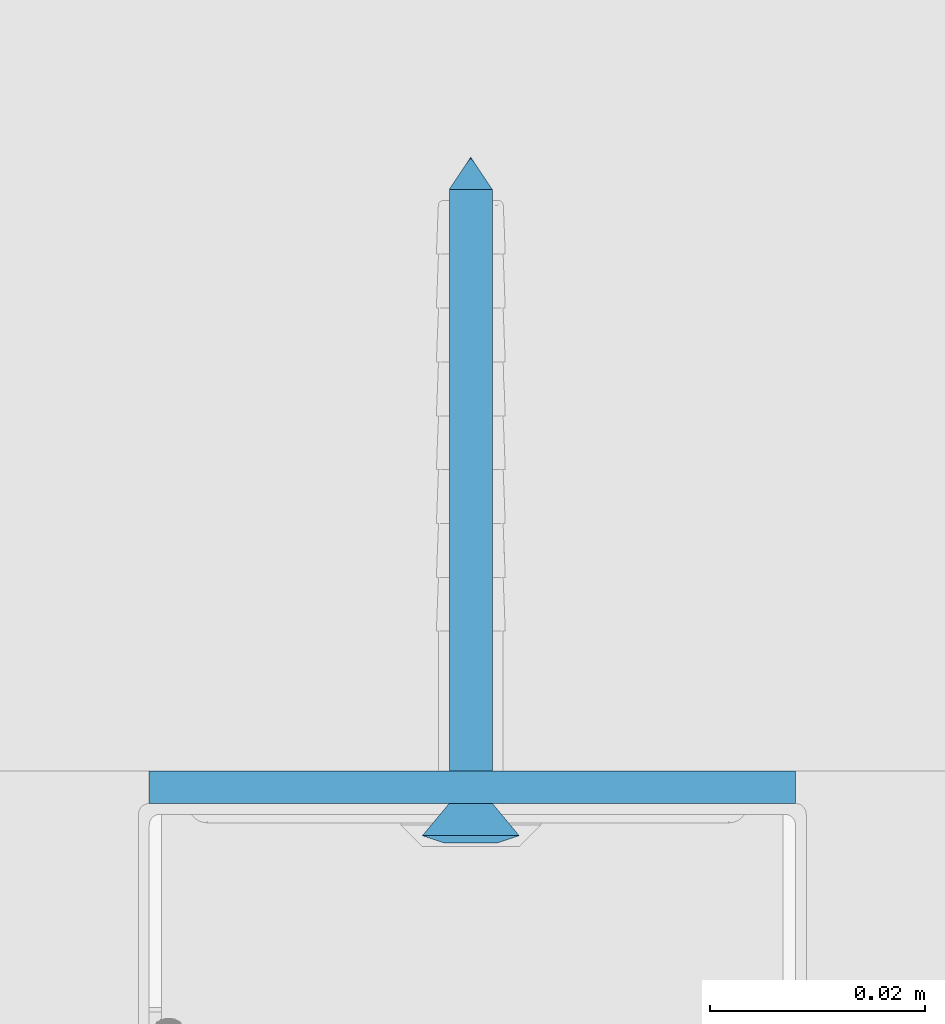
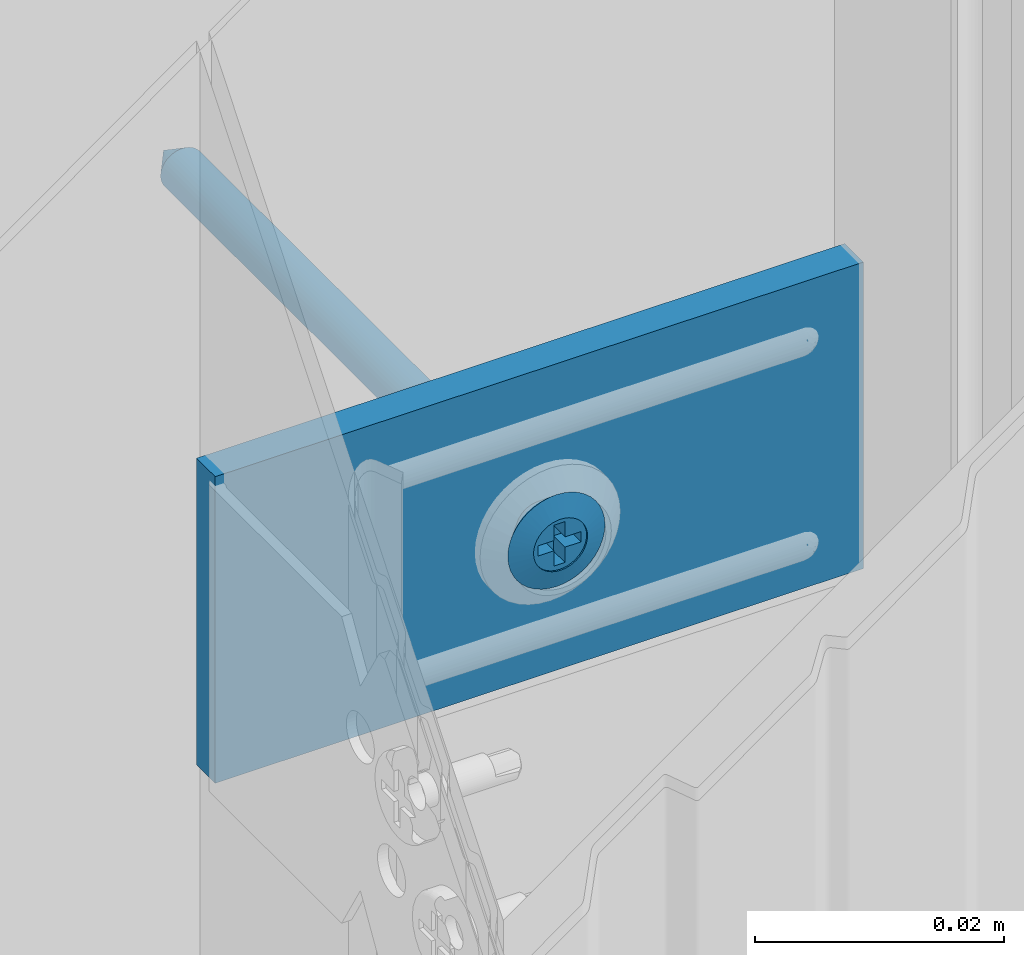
# One storey, part 52 of 62: 2 walls.
"""IFC2X3 building model written with IfcOpenShell, lengths in millimetres."""

from ifc_helpers import new_model, entity, si_unit, converted_unit, direction, frame, origin, origin_with_axes, place, context, project, spatial, faceted_brep, element, save


model = new_model("IFC2X3")

# Units and contexts
model_context = context("Model", 3, precision=1e-05, world=origin(), true_north=direction((0.0, 1.0, 0.0)))
ifc_project = project(units=[si_unit("LENGTHUNIT", "METRE", prefix="MILLI"), si_unit("AREAUNIT", "SQUARE_METRE"), si_unit("VOLUMEUNIT", "CUBIC_METRE"), converted_unit("PLANEANGLEUNIT", "DEGREE", entity("IfcPlaneAngleMeasure", 0.01745), si_unit("PLANEANGLEUNIT", "RADIAN"), dimensions=[0, 0, 0, 0, 0, 0, 0]), si_unit("SOLIDANGLEUNIT", "STERADIAN"), si_unit("MASSUNIT", "GRAM"), si_unit("TIMEUNIT", "SECOND"), si_unit("THERMODYNAMICTEMPERATUREUNIT", "DEGREE_CELSIUS"), si_unit("LUMINOUSINTENSITYUNIT", "LUMEN")], contexts=[model_context])

# Site, building, storey
site_placement = place(None, origin_with_axes())
site = spatial("IfcSite", under=ifc_project, at=site_placement, Name="Default Site", CompositionType="ELEMENT")
building_placement = place(site_placement, origin_with_axes())
building = spatial("IfcBuilding", under=site, at=building_placement, Name="Default Building", CompositionType="ELEMENT")
storey_placement = place(building_placement, origin_with_axes())
storey = spatial("IfcBuildingStorey", under=building, at=storey_placement, Name="Default Building Storey", CompositionType="ELEMENT", Elevation=0.0)

# Walls
wall_1_placement = place(storey_placement, frame((2873.037086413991, 2019.778611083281, 272.8482394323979), z_axis=(0.0, 0.0, -1.0), x_axis=(1.0, 0.0, 0.0)))
element("IfcWall", 1, at=wall_1_placement, inside=storey, Name="Taśma uszczelniająca piankowa RIGIPS szer.30mm", context=model_context, shape_type="Brep", body=[
    faceted_brep([(59.99999999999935, 0.0, 4.511946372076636e-12), (0.0, 0.0, 0.0), (1.082867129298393e-12, 2.237925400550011e-11, -30.00000000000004), (60.00000000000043, 2.237925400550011e-11, -29.99999999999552), (0.0, -3.00000000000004, 0.0), (1.082867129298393e-12, -2.999999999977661, -30.00000000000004), (60.00000000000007, -3.00000000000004, 0.0), (60.00000000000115, -2.999999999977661, -30.00000000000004)], [[[0, 1, 2, 3]], [[1, 4, 5, 2]], [[4, 6, 7, 5]], [[6, 0, 3, 7]], [[7, 3, 2, 5]], [[0, 6, 4, 1]]]),
])
wall_2_placement = place(storey_placement, frame((6356.176283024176, 2016.328611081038, -1145.863402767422), z_axis=(-6.858158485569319e-13, -1.0, -7.642380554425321e-14), x_axis=(-1.647602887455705e-11, 7.642380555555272e-14, -1.0)))
element("IfcWall", 2, at=wall_2_placement, inside=storey, Name="Kołek rozporowy min. fi 6", context=model_context, shape_type="Brep", body=[
    faceted_brep([(-1438.31414949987, -3453.283223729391, -0.4642567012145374), (-1435.814149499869, -3453.283223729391, -3.464256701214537), (-1435.78952618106, -3452.97035479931, -3.464256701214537), (-1438.258747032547, -3452.57926863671, -0.4642567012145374), (-1435.71626253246, -3452.665189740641, -3.464256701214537), (-1438.093903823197, -3451.892647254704, -0.4642567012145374), (-1435.596162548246, -3452.375242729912, -3.464256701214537), (-1437.823678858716, -3451.240266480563, -0.4642567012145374), (-1435.432183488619, -3452.107653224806, -3.464256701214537), (-1437.454725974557, -3450.638190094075, -0.4642567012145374), (-1435.228363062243, -3451.869010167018, -3.464256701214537), (-1436.996130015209, -3450.101243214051, -0.4642567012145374), (-1434.989720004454, -3451.665189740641, -3.464256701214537), (-1436.459183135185, -3449.642647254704, -0.4642567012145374), (-1434.722130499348, -3451.501210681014, -3.464256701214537), (-1435.857106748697, -3449.273694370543, -0.4642567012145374), (-1434.432183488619, -3451.381110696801, -3.464256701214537), (-1435.204725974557, -3449.003469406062, -0.4642567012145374), (-1434.12701842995, -3451.307847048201, -3.464256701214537), (-1434.51810459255, -3448.838626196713, -0.4642567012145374), (-1433.814149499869, -3451.283223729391, -3.464256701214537), (-1433.814149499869, -3448.783223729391, -0.4642567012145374), (-1433.501280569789, -3451.307847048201, -3.464256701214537), (-1433.110194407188, -3448.838626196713, -0.4642567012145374), (-1433.19611551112, -3451.381110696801, -3.464256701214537), (-1432.423573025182, -3449.003469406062, -0.4642567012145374), (-1432.906168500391, -3451.501210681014, -3.464256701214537), (-1431.771192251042, -3449.273694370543, -0.4642567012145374), (-1432.638578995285, -3451.665189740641, -3.464256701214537), (-1431.169115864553, -3449.642647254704, -0.4642567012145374), (-1432.399935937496, -3451.869010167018, -3.464256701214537), (-1430.63216898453, -3450.101243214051, -0.4642567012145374), (-1432.196115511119, -3452.107653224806, -3.464256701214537), (-1430.173573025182, -3450.638190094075, -0.4642567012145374), (-1432.032136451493, -3452.375242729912, -3.464256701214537), (-1429.804620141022, -3451.240266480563, -0.4642567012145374), (-1431.912036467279, -3452.665189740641, -3.464256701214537), (-1429.534395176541, -3451.892647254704, -0.4642567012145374), (-1431.838772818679, -3453.596092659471, -3.464256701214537), (-1429.369551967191, -3453.987178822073, -0.4642567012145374), (-1429.314149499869, -3453.283223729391, -0.4642567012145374), (-1431.81414949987, -3453.283223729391, -3.464256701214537), (-1429.369551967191, -3452.57926863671, -0.4642567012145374), (-1431.838772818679, -3452.97035479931, -3.464256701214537), (-1431.912036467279, -3453.901257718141, -3.464256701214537), (-1429.534395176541, -3454.673800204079, -0.4642567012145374), (-1432.032136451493, -3454.19120472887, -3.464256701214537), (-1429.804620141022, -3455.326180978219, -0.4642567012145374), (-1432.196115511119, -3454.458794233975, -3.464256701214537), (-1430.173573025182, -3455.928257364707, -0.4642567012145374), (-1432.399935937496, -3454.697437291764, -3.464256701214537), (-1430.63216898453, -3456.465204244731, -0.4642567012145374), (-1432.638578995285, -3454.901257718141, -3.464256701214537), (-1431.169115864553, -3456.923800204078, -0.4642567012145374), (-1432.906168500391, -3455.065236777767, -3.464256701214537), (-1431.771192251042, -3457.292753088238, -0.4642567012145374), (-1433.19611551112, -3455.185336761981, -3.464256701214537), (-1432.423573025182, -3457.562978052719, -0.4642567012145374), (-1433.501280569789, -3455.258600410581, -3.464256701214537), (-1433.110194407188, -3457.727821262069, -0.4642567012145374), (-1433.814149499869, -3455.283223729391, -3.464256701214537), (-1433.814149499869, -3457.783223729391, -0.4642567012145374), (-1434.34306778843, -3457.752031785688, -0.4642567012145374), (-1434.12701842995, -3455.258600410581, -3.464256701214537), (-1434.432183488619, -3455.185336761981, -3.464256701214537), (-1434.864653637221, -3457.658888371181, -0.4642567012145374), (-1435.371676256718, -3457.505084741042, -0.4642567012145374), (-1434.722130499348, -3455.065236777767, -3.464256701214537), (-1435.857106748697, -3457.292753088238, -0.4642567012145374), (-1434.989720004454, -3454.901257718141, -3.464256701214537), (-1435.228363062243, -3454.697437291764, -3.464256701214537), (-1436.314215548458, -3457.024836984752, -0.4642567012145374), (-1436.736665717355, -3456.705050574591, -0.4642567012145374), (-1437.11860079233, -3456.337827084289, -0.4642567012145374), (-1437.454725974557, -3455.928257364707, -0.4642567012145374), (-1435.432183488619, -3454.458794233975, -3.464256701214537), (-1435.596162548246, -3454.19120472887, -3.464256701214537), (-1437.823678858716, -3455.326180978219, -0.4642567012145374), (-1435.71626253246, -3453.901257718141, -3.464256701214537), (-1438.093903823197, -3454.673800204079, -0.4642567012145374), (-1435.78952618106, -3453.596092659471, -3.464256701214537), (-1438.258747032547, -3453.987178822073, -0.4642567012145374), (-1434.205235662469, -3455.752444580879, 0.2007375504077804), (-1433.814149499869, -3455.78322372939, 0.2007375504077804), (-1434.586691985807, -3455.660865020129, 0.2007375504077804), (-1434.949125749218, -3455.510740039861, 0.2007375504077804), (-1435.283612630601, -3455.305766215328, 0.2007375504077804), (-1435.581916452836, -3455.050990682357, 0.2007375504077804), (-1435.836691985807, -3454.752686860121, 0.2007375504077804), (-1436.04166581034, -3454.41819997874, 0.2007375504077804), (-1436.191790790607, -3454.055766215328, 0.2007375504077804), (-1436.283370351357, -3453.674309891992, 0.2007375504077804), (-1436.314149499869, -3453.283223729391, 0.2007375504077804), (-1436.283370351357, -3452.892137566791, 0.2007375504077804), (-1436.191790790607, -3452.510681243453, 0.2007375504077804), (-1436.04166581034, -3452.148247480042, 0.2007375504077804), (-1435.836691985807, -3451.81376059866, 0.200737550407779), (-1435.581916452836, -3451.515456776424, 0.2007375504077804), (-1435.283612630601, -3451.260681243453, 0.2007375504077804), (-1434.949125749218, -3451.05570741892, 0.2007375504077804), (-1434.586691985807, -3450.905582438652, 0.2007375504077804), (-1433.423063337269, -3450.814002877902, 0.2007375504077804), (-1433.814149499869, -3450.783223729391, 0.2007375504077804), (-1434.205235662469, -3450.814002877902, 0.2007375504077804), (-1433.041607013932, -3450.905582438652, 0.2007375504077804), (-1432.67917325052, -3451.05570741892, 0.2007375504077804), (-1432.344686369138, -3451.260681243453, 0.2007375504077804), (-1432.046382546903, -3451.515456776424, 0.2007375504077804), (-1431.791607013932, -3451.81376059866, 0.2007375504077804), (-1431.586633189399, -3452.148247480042, 0.2007375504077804), (-1431.436508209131, -3452.510681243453, 0.2007375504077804), (-1431.344928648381, -3452.892137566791, 0.2007375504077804), (-1431.314149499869, -3453.283223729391, 0.2007375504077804), (-1431.344928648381, -3453.674309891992, 0.2007375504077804), (-1431.436508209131, -3454.055766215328, 0.2007375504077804), (-1431.586633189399, -3454.41819997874, 0.2007375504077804), (-1431.791607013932, -3454.752686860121, 0.2007375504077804), (-1432.046382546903, -3455.050990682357, 0.2007375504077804), (-1432.344686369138, -3455.305766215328, 0.2007375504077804), (-1432.67917325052, -3455.510740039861, 0.2007375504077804), (-1433.041607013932, -3455.660865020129, 0.2007375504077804), (-1433.423063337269, -3455.752444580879, 0.2007375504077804), (-1433.814149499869, -3453.283223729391, -63.46425670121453), (-1435.789526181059, -3452.97035479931, -60.46425670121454), (-1435.814149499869, -3453.283223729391, -60.46425670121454), (-1435.716262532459, -3452.665189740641, -60.46425670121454), (-1435.596162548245, -3452.375242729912, -60.46425670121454), (-1435.432183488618, -3452.107653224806, -60.46425670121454), (-1435.228363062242, -3451.869010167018, -60.46425670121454), (-1434.989720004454, -3451.665189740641, -60.46425670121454), (-1434.722130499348, -3451.501210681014, -60.46425670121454), (-1434.432183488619, -3451.381110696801, -60.46425670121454), (-1434.127018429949, -3451.307847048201, -60.46425670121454), (-1433.814149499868, -3451.283223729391, -60.46425670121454), (-1433.501280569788, -3451.307847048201, -60.46425670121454), (-1433.196115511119, -3451.381110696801, -60.46425670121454), (-1432.90616850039, -3451.501210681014, -60.46425670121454), (-1432.638578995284, -3451.665189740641, -60.46425670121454), (-1432.399935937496, -3451.869010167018, -60.46425670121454), (-1432.196115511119, -3452.107653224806, -60.46425670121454), (-1432.032136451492, -3452.375242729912, -60.46425670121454), (-1431.912036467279, -3452.665189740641, -60.46425670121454), (-1431.838772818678, -3452.97035479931, -60.46425670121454), (-1431.814149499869, -3453.283223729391, -60.46425670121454), (-1431.838772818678, -3453.596092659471, -60.46425670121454), (-1431.912036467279, -3453.901257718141, -60.46425670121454), (-1432.032136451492, -3454.19120472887, -60.46425670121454), (-1432.196115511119, -3454.458794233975, -60.46425670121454), (-1432.399935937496, -3454.697437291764, -60.46425670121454), (-1432.638578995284, -3454.901257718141, -60.46425670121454), (-1432.90616850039, -3455.065236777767, -60.46425670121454), (-1433.196115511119, -3455.185336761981, -60.46425670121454), (-1433.501280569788, -3455.258600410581, -60.46425670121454), (-1433.814149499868, -3455.283223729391, -60.46425670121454), (-1434.127018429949, -3455.258600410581, -60.46425670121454), (-1434.432183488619, -3455.185336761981, -60.46425670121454), (-1434.722130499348, -3455.065236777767, -60.46425670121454), (-1434.989720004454, -3454.901257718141, -60.46425670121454), (-1435.228363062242, -3454.697437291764, -60.46425670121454), (-1435.432183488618, -3454.458794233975, -60.46425670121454), (-1435.596162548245, -3454.19120472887, -60.46425670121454), (-1435.716262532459, -3453.901257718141, -60.46425670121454), (-1435.789526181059, -3453.596092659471, -60.46425670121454), (-1435.814149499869, -3453.783223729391, 0.04999999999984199), (-1436.04166581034, -3454.41819997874, 0.04999999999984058), (-1436.191790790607, -3454.055766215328, 0.04999999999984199), (-1435.814149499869, -3452.783223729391, 0.04999999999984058), (-1434.314149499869, -3453.783223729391, 0.04999999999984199), (-1434.314149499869, -3455.28322372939, 0.04999999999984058), (-1433.314149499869, -3455.28322372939, 0.04999999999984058), (-1433.314149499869, -3453.783223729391, 0.04999999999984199), (-1431.814149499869, -3453.783223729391, 0.04999999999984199), (-1431.814149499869, -3452.783223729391, 0.04999999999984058), (-1433.314149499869, -3452.783223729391, 0.04999999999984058), (-1433.314149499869, -3451.283223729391, 0.04999999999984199), (-1434.314149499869, -3451.283223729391, 0.04999999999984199), (-1434.314149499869, -3452.783223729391, 0.04999999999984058), (-1436.283370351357, -3453.674309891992, 0.04999999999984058), (-1436.314149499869, -3453.283223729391, 0.04999999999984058), (-1436.283370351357, -3452.892137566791, 0.04999999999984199), (-1436.191790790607, -3452.510681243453, 0.04999999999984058), (-1436.04166581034, -3452.148247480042, 0.04999999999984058), (-1435.836691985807, -3451.81376059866, 0.04999999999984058), (-1435.581916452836, -3451.515456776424, 0.04999999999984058), (-1435.283612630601, -3451.260681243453, 0.04999999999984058), (-1434.949125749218, -3451.05570741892, 0.04999999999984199), (-1434.586691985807, -3450.905582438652, 0.04999999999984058), (-1434.205235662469, -3450.814002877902, 0.04999999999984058), (-1433.814149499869, -3450.783223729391, 0.04999999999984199), (-1433.423063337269, -3450.814002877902, 0.04999999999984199), (-1433.041607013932, -3450.905582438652, 0.04999999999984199), (-1432.67917325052, -3451.05570741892, 0.04999999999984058), (-1432.344686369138, -3451.260681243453, 0.04999999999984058), (-1432.046382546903, -3451.515456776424, 0.04999999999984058), (-1431.791607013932, -3451.81376059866, 0.04999999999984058), (-1431.586633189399, -3452.148247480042, 0.04999999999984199), (-1431.436508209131, -3452.510681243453, 0.04999999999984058), (-1431.344928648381, -3452.892137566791, 0.04999999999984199), (-1431.314149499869, -3453.283223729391, 0.04999999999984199), (-1431.344928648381, -3453.674309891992, 0.04999999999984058), (-1431.436508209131, -3454.055766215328, 0.04999999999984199), (-1431.586633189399, -3454.41819997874, 0.04999999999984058), (-1431.791607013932, -3454.752686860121, 0.04999999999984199), (-1432.046382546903, -3455.050990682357, 0.04999999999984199), (-1432.344686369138, -3455.305766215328, 0.04999999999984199), (-1432.67917325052, -3455.510740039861, 0.04999999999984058), (-1433.041607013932, -3455.660865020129, 0.04999999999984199), (-1433.423063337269, -3455.752444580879, 0.04999999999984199), (-1433.814149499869, -3455.78322372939, 0.04999999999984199), (-1434.205235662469, -3455.752444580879, 0.04999999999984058), (-1434.586691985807, -3455.660865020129, 0.04999999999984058), (-1434.949125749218, -3455.510740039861, 0.04999999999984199), (-1435.283612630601, -3455.305766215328, 0.04999999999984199), (-1435.581916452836, -3455.050990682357, 0.04999999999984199), (-1435.836691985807, -3454.752686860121, 0.04999999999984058), (-1434.314149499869, -3452.783223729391, -1.79926244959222), (-1434.314149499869, -3451.283223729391, -1.799262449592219), (-1433.314149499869, -3451.283223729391, -1.799262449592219), (-1433.314149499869, -3452.783223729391, -1.79926244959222), (-1431.81414949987, -3452.783223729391, -1.79926244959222), (-1431.81414949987, -3453.783223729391, -1.799262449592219), (-1433.314149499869, -3453.783223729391, -1.799262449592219), (-1433.314149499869, -3455.28322372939, -1.79926244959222), (-1434.314149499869, -3455.28322372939, -1.79926244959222), (-1434.314149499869, -3453.783223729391, -1.799262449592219), (-1435.814149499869, -3453.783223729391, -1.799262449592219), (-1435.814149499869, -3452.783223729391, -1.79926244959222)], [[[0, 1, 2, 3]], [[4, 5, 3, 2]], [[6, 7, 5, 4]], [[7, 6, 8, 9]], [[10, 11, 9, 8]], [[11, 10, 12, 13]], [[14, 15, 13, 12]], [[16, 17, 15, 14]], [[17, 16, 18, 19]], [[20, 21, 19, 18]], [[21, 20, 22, 23]], [[24, 25, 23, 22]], [[26, 27, 25, 24]], [[27, 26, 28, 29]], [[30, 31, 29, 28]], [[31, 30, 32, 33]], [[34, 35, 33, 32]], [[36, 37, 35, 34]], [[38, 39, 40, 41]], [[41, 40, 42, 43]], [[37, 36, 43, 42]], [[44, 45, 39, 38]], [[46, 47, 45, 44]], [[47, 46, 48, 49]], [[50, 51, 49, 48]], [[51, 50, 52, 53]], [[54, 55, 53, 52]], [[56, 57, 55, 54]], [[57, 56, 58, 59]], [[60, 61, 59, 58]], [[62, 61, 63]], [[61, 60, 63]], [[63, 64, 62]], [[64, 65, 62]], [[66, 65, 64]], [[64, 67, 66]], [[67, 68, 66]], [[69, 70, 71]], [[70, 72, 71]], [[71, 68, 69]], [[68, 67, 69]], [[70, 73, 72]], [[74, 73, 75]], [[73, 70, 75]], [[76, 77, 74, 75]], [[78, 79, 77, 76]], [[79, 78, 80, 81]], [[1, 0, 81, 80]], [[82, 83, 62]], [[83, 61, 62]], [[62, 65, 82]], [[65, 84, 82]], [[66, 68, 84]], [[68, 85, 84]], [[84, 65, 66]], [[86, 85, 71]], [[85, 68, 71]], [[72, 73, 87]], [[87, 86, 72]], [[86, 71, 72]], [[88, 87, 74]], [[87, 73, 74]], [[77, 89, 88, 74]], [[79, 90, 89, 77]], [[90, 79, 81, 91]], [[0, 92, 91, 81]], [[92, 0, 3, 93]], [[5, 94, 93, 3]], [[7, 95, 94, 5]], [[95, 7, 9, 96]], [[11, 97, 96, 9]], [[97, 11, 13, 98]], [[15, 99, 98, 13]], [[17, 100, 99, 15]], [[23, 101, 102, 21]], [[21, 102, 103, 19]], [[100, 17, 19, 103]], [[25, 104, 101, 23]], [[27, 105, 104, 25]], [[105, 27, 29, 106]], [[31, 107, 106, 29]], [[107, 31, 33, 108]], [[35, 109, 108, 33]], [[37, 110, 109, 35]], [[110, 37, 42, 111]], [[40, 112, 111, 42]], [[112, 40, 39, 113]], [[45, 114, 113, 39]], [[47, 115, 114, 45]], [[115, 47, 49, 116]], [[51, 117, 116, 49]], [[117, 51, 53, 118]], [[55, 119, 118, 53]], [[57, 120, 119, 55]], [[120, 57, 59, 121]], [[61, 83, 121, 59]], [[122, 123, 124]], [[122, 125, 123]], [[122, 126, 125]], [[127, 126, 122]], [[122, 128, 127]], [[129, 128, 122]], [[122, 130, 129]], [[122, 131, 130]], [[132, 131, 122]], [[122, 133, 132]], [[134, 133, 122]], [[122, 135, 134]], [[122, 136, 135]], [[137, 136, 122]], [[122, 138, 137]], [[139, 138, 122]], [[122, 140, 139]], [[122, 141, 140]], [[142, 141, 122]], [[122, 143, 142]], [[144, 143, 122]], [[122, 145, 144]], [[122, 146, 145]], [[147, 146, 122]], [[122, 148, 147]], [[149, 148, 122]], [[122, 150, 149]], [[122, 151, 150]], [[152, 151, 122]], [[122, 153, 152]], [[154, 153, 122]], [[122, 155, 154]], [[122, 156, 155]], [[157, 156, 122]], [[122, 158, 157]], [[159, 158, 122]], [[122, 160, 159]], [[122, 161, 160]], [[162, 161, 122]], [[124, 162, 122]], [[1, 124, 123, 2]], [[125, 4, 2, 123]], [[126, 6, 4, 125]], [[6, 126, 127, 8]], [[128, 10, 8, 127]], [[10, 128, 129, 12]], [[130, 14, 12, 129]], [[131, 16, 14, 130]], [[16, 131, 132, 18]], [[133, 20, 18, 132]], [[20, 133, 134, 22]], [[135, 24, 22, 134]], [[136, 26, 24, 135]], [[26, 136, 137, 28]], [[138, 30, 28, 137]], [[30, 138, 139, 32]], [[140, 34, 32, 139]], [[141, 36, 34, 140]], [[144, 38, 41, 143]], [[143, 41, 43, 142]], [[36, 141, 142, 43]], [[145, 44, 38, 144]], [[146, 46, 44, 145]], [[46, 146, 147, 48]], [[148, 50, 48, 147]], [[50, 148, 149, 52]], [[150, 54, 52, 149]], [[151, 56, 54, 150]], [[56, 151, 152, 58]], [[153, 60, 58, 152]], [[60, 153, 154, 63]], [[155, 64, 63, 154]], [[156, 67, 64, 155]], [[67, 156, 157, 69]], [[158, 70, 69, 157]], [[70, 158, 159, 75]], [[160, 76, 75, 159]], [[161, 78, 76, 160]], [[78, 161, 162, 80]], [[124, 1, 80, 162]], [[163, 164, 165, 166]], [[163, 167, 168, 169, 170, 171, 172, 173, 174, 175, 176, 166, 165, 177, 178, 179, 180, 181, 182, 183, 184, 185, 186, 187, 188, 189, 190, 191, 192, 193, 194, 195, 196, 197, 198, 199, 200, 201, 202, 203, 204, 205, 206, 207, 208, 209, 210, 211, 212, 213, 214, 164]], [[199, 198, 112, 113]], [[113, 114, 200, 199]], [[114, 115, 201, 200]], [[202, 201, 115, 116]], [[116, 117, 203, 202]], [[204, 203, 117, 118]], [[118, 119, 205, 204]], [[119, 120, 206, 205]], [[207, 206, 120, 121]], [[121, 83, 208, 207]], [[209, 208, 83, 82]], [[82, 84, 210, 209]], [[84, 85, 211, 210]], [[212, 211, 85, 86]], [[86, 87, 213, 212]], [[214, 213, 87, 88]], [[88, 89, 164, 214]], [[89, 90, 165, 164]], [[92, 93, 179, 178]], [[91, 92, 178, 177]], [[177, 165, 90, 91]], [[93, 94, 180, 179]], [[94, 95, 181, 180]], [[182, 181, 95, 96]], [[96, 97, 183, 182]], [[184, 183, 97, 98]], [[98, 99, 185, 184]], [[99, 100, 186, 185]], [[187, 186, 100, 103]], [[103, 102, 188, 187]], [[189, 188, 102, 101]], [[101, 104, 190, 189]], [[104, 105, 191, 190]], [[192, 191, 105, 106]], [[106, 107, 193, 192]], [[194, 193, 107, 108]], [[108, 109, 195, 194]], [[109, 110, 196, 195]], [[197, 196, 110, 111]], [[111, 112, 198, 197]], [[215, 216, 217, 218, 219, 220, 221, 222, 223, 224, 225, 226]], [[216, 175, 174, 217]], [[215, 176, 175, 216]], [[226, 166, 176, 215]], [[225, 163, 166, 226]], [[224, 167, 163, 225]], [[223, 168, 167, 224]], [[222, 169, 168, 223]], [[221, 170, 169, 222]], [[220, 171, 170, 221]], [[219, 172, 171, 220]], [[218, 173, 172, 219]], [[217, 174, 173, 218]]]),
])

save(model, "model.ifc")
